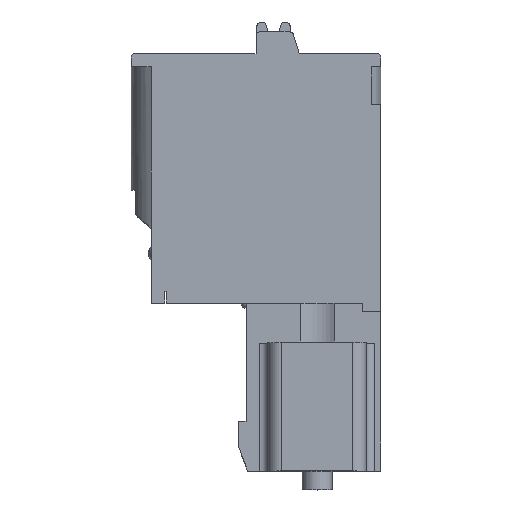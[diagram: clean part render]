
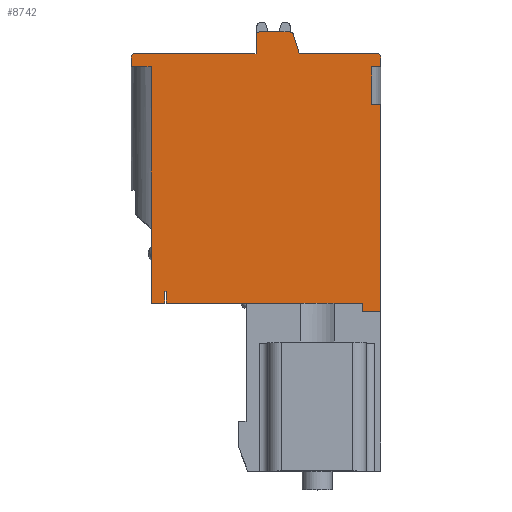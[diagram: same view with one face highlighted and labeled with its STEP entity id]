
A CAD part, top view. The second image highlights one B-rep face of the part: STEP entity #8742.
In plain terms, the highlighted planar face has unit normal (0, 0, 1).
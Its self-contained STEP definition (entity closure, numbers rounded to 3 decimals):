
#337=DIRECTION('',(0.,1.,0.));
#338=VECTOR('',#337,0.6);
#339=CARTESIAN_POINT('',(15.003,14.7,-15.24));
#340=LINE('',#339,#338);
#453=DIRECTION('',(0.,1.,0.));
#454=VECTOR('',#453,12.45);
#455=CARTESIAN_POINT('',(15.003,0.,-15.24));
#456=LINE('',#455,#454);
#1125=DIRECTION('',(0.,-1.,0.));
#1126=VECTOR('',#1125,0.5);
#1127=CARTESIAN_POINT('',(13.903,0.5,-15.24));
#1128=LINE('',#1127,#1126);
#1137=DIRECTION('',(-1.,0.,0.));
#1138=VECTOR('',#1137,1.1);
#1139=CARTESIAN_POINT('',(15.003,0.,-15.24));
#1140=LINE('',#1139,#1138);
#1141=DIRECTION('',(-1.,0.,0.));
#1142=VECTOR('',#1141,7.);
#1143=CARTESIAN_POINT('',(13.903,0.5,-15.24));
#1144=LINE('',#1143,#1142);
#1145=DIRECTION('',(-1.,0.,0.));
#1146=VECTOR('',#1145,0.1);
#1147=CARTESIAN_POINT('',(2.103,1.2,-15.24));
#1148=LINE('',#1147,#1146);
#1149=CARTESIAN_POINT('',(0.203,15.3,-15.24));
#1150=DIRECTION('',(0.,0.,-1.));
#1151=DIRECTION('',(-1.,0.,0.));
#1152=AXIS2_PLACEMENT_3D('',#1149,#1150,#1151);
#1154=CARTESIAN_POINT('',(7.703,16.6,-15.24));
#1155=DIRECTION('',(0.,0.,-1.));
#1156=DIRECTION('',(-1.,0.,0.));
#1157=AXIS2_PLACEMENT_3D('',#1154,#1155,#1156);
#1159=DIRECTION('',(1.,0.,0.));
#1160=VECTOR('',#1159,1.852);
#1161=CARTESIAN_POINT('',(7.703,16.8,-15.24));
#1162=LINE('',#1161,#1160);
#1163=CARTESIAN_POINT('',(9.555,16.6,-15.24));
#1164=DIRECTION('',(0.,0.,-1.));
#1165=DIRECTION('',(0.,1.,0.));
#1166=AXIS2_PLACEMENT_3D('',#1163,#1164,#1165);
#1168=DIRECTION('',(0.294,-0.956,0.));
#1169=VECTOR('',#1168,1.212);
#1170=CARTESIAN_POINT('',(9.746,16.659,-15.24));
#1171=LINE('',#1170,#1169);
#1172=DIRECTION('',(1.,0.,0.));
#1173=VECTOR('',#1172,4.7);
#1174=CARTESIAN_POINT('',(10.103,15.5,-15.24));
#1175=LINE('',#1174,#1173);
#1176=CARTESIAN_POINT('',(14.803,15.3,-15.24));
#1177=DIRECTION('',(0.,0.,-1.));
#1178=DIRECTION('',(0.,1.,0.));
#1179=AXIS2_PLACEMENT_3D('',#1176,#1177,#1178);
#1510=DIRECTION('',(1.,0.,0.));
#1511=VECTOR('',#1510,4.8);
#1512=CARTESIAN_POINT('',(2.103,0.5,-15.24));
#1513=LINE('',#1512,#1511);
#1548=DIRECTION('',(0.,-1.,0.));
#1549=VECTOR('',#1548,0.7);
#1550=CARTESIAN_POINT('',(2.103,1.2,-15.24));
#1551=LINE('',#1550,#1549);
#1564=DIRECTION('',(0.,1.,0.));
#1565=VECTOR('',#1564,0.7);
#1566=CARTESIAN_POINT('',(2.003,0.5,-15.24));
#1567=LINE('',#1566,#1565);
#1568=DIRECTION('',(1.,0.,0.));
#1569=VECTOR('',#1568,0.8);
#1570=CARTESIAN_POINT('',(1.203,0.5,-15.24));
#1571=LINE('',#1570,#1569);
#1580=DIRECTION('',(0.,-1.,0.));
#1581=VECTOR('',#1580,14.2);
#1582=CARTESIAN_POINT('',(1.203,14.7,-15.24));
#1583=LINE('',#1582,#1581);
#1694=DIRECTION('',(0.,-1.,0.));
#1695=VECTOR('',#1694,0.6);
#1696=CARTESIAN_POINT('',(0.003,15.3,-15.24));
#1697=LINE('',#1696,#1695);
#1730=DIRECTION('',(-1.,0.,0.));
#1731=VECTOR('',#1730,7.3);
#1732=CARTESIAN_POINT('',(7.503,15.5,-15.24));
#1733=LINE('',#1732,#1731);
#2032=DIRECTION('',(0.,-1.,0.));
#2033=VECTOR('',#2032,1.1);
#2034=CARTESIAN_POINT('',(7.503,16.6,-15.24));
#2035=LINE('',#2034,#2033);
#2870=DIRECTION('',(1.,0.,0.));
#2871=VECTOR('',#2870,1.2);
#2872=CARTESIAN_POINT('',(0.003,14.7,-15.24));
#2873=LINE('',#2872,#2871);
#3512=DIRECTION('',(1.,0.,0.));
#3513=VECTOR('',#3512,0.55);
#3514=CARTESIAN_POINT('',(14.453,14.7,-15.24));
#3515=LINE('',#3514,#3513);
#3537=DIRECTION('',(-1.,0.,0.));
#3538=VECTOR('',#3537,0.55);
#3539=CARTESIAN_POINT('',(15.003,12.45,-15.24));
#3540=LINE('',#3539,#3538);
#3550=DIRECTION('',(0.,1.,0.));
#3551=VECTOR('',#3550,2.25);
#3552=CARTESIAN_POINT('',(14.453,12.45,-15.24));
#3553=LINE('',#3552,#3551);
#5421=CARTESIAN_POINT('',(14.803,15.5,-15.24));
#5423=VERTEX_POINT('',#5421);
#5425=CARTESIAN_POINT('',(10.103,15.5,-15.24));
#5426=VERTEX_POINT('',#5425);
#5474=CARTESIAN_POINT('',(15.003,15.3,-15.24));
#5476=VERTEX_POINT('',#5474);
#5481=CARTESIAN_POINT('',(15.003,14.7,-15.24));
#5482=VERTEX_POINT('',#5481);
#5513=CARTESIAN_POINT('',(15.003,0.,-15.24));
#5514=VERTEX_POINT('',#5513);
#5515=CARTESIAN_POINT('',(15.003,12.45,-15.24));
#5516=VERTEX_POINT('',#5515);
#5720=CARTESIAN_POINT('',(6.903,0.5,-15.24));
#5721=VERTEX_POINT('',#5720);
#5739=CARTESIAN_POINT('',(2.103,0.5,-15.24));
#5741=VERTEX_POINT('',#5739);
#5782=CARTESIAN_POINT('',(2.003,0.5,-15.24));
#5783=VERTEX_POINT('',#5782);
#5784=CARTESIAN_POINT('',(1.203,0.5,-15.24));
#5785=VERTEX_POINT('',#5784);
#5798=CARTESIAN_POINT('',(1.203,14.7,-15.24));
#5799=VERTEX_POINT('',#5798);
#5874=CARTESIAN_POINT('',(7.503,15.5,-15.24));
#5875=VERTEX_POINT('',#5874);
#5876=CARTESIAN_POINT('',(0.203,15.5,-15.24));
#5877=VERTEX_POINT('',#5876);
#6075=CARTESIAN_POINT('',(0.003,15.3,-15.24));
#6076=VERTEX_POINT('',#6075);
#6077=CARTESIAN_POINT('',(0.003,14.7,-15.24));
#6078=VERTEX_POINT('',#6077);
#6083=CARTESIAN_POINT('',(7.503,16.6,-15.24));
#6084=VERTEX_POINT('',#6083);
#6085=CARTESIAN_POINT('',(7.703,16.8,-15.24));
#6086=VERTEX_POINT('',#6085);
#6087=CARTESIAN_POINT('',(9.555,16.8,-15.24));
#6088=VERTEX_POINT('',#6087);
#6089=CARTESIAN_POINT('',(9.746,16.659,-15.24));
#6090=VERTEX_POINT('',#6089);
#6091=CARTESIAN_POINT('',(14.453,14.7,-15.24));
#6092=VERTEX_POINT('',#6091);
#6093=CARTESIAN_POINT('',(14.453,12.45,-15.24));
#6094=VERTEX_POINT('',#6093);
#6639=CARTESIAN_POINT('',(2.103,1.2,-15.24));
#6641=VERTEX_POINT('',#6639);
#6646=CARTESIAN_POINT('',(13.903,0.5,-15.24));
#6647=CARTESIAN_POINT('',(13.903,0.,-15.24));
#6648=VERTEX_POINT('',#6646);
#6649=VERTEX_POINT('',#6647);
#6650=CARTESIAN_POINT('',(2.003,1.2,-15.24));
#6652=VERTEX_POINT('',#6650);
#8691=CARTESIAN_POINT('',(7.503,8.4,-15.24));
#8692=DIRECTION('',(0.,0.,1.));
#8693=DIRECTION('',(1.,0.,0.));
#8694=AXIS2_PLACEMENT_3D('',#8691,#8692,#8693);
#8695=PLANE('',#8694);
#8696=ORIENTED_EDGE('',*,*,#8582,.T.);
#8697=ORIENTED_EDGE('',*,*,#8681,.F.);
#8699=ORIENTED_EDGE('',*,*,#8698,.T.);
#8701=ORIENTED_EDGE('',*,*,#8700,.F.);
#8703=ORIENTED_EDGE('',*,*,#8702,.F.);
#8705=ORIENTED_EDGE('',*,*,#8704,.T.);
#8707=ORIENTED_EDGE('',*,*,#8706,.F.);
#8709=ORIENTED_EDGE('',*,*,#8708,.F.);
#8711=ORIENTED_EDGE('',*,*,#8710,.F.);
#8713=ORIENTED_EDGE('',*,*,#8712,.F.);
#8715=ORIENTED_EDGE('',*,*,#8714,.F.);
#8717=ORIENTED_EDGE('',*,*,#8716,.T.);
#8719=ORIENTED_EDGE('',*,*,#8718,.F.);
#8721=ORIENTED_EDGE('',*,*,#8720,.F.);
#8723=ORIENTED_EDGE('',*,*,#8722,.T.);
#8725=ORIENTED_EDGE('',*,*,#8724,.T.);
#8727=ORIENTED_EDGE('',*,*,#8726,.T.);
#8729=ORIENTED_EDGE('',*,*,#8728,.T.);
#8730=ORIENTED_EDGE('',*,*,#7461,.T.);
#8731=ORIENTED_EDGE('',*,*,#7536,.T.);
#8732=ORIENTED_EDGE('',*,*,#7553,.F.);
#8734=ORIENTED_EDGE('',*,*,#8733,.F.);
#8736=ORIENTED_EDGE('',*,*,#8735,.F.);
#8738=ORIENTED_EDGE('',*,*,#8737,.F.);
#8739=ORIENTED_EDGE('',*,*,#7774,.F.);
#8740=EDGE_LOOP('',(#8696,#8697,#8699,#8701,#8703,#8705,#8707,#8709,#8711,#8713,
#8715,#8717,#8719,#8721,#8723,#8725,#8727,#8729,#8730,#8731,#8732,#8734,#8736,
#8738,#8739));
#8741=FACE_OUTER_BOUND('',#8740,.F.);
#8742=ADVANCED_FACE('',(#8741),#8695,.T.);
#1153=CIRCLE('',#1152,0.2);
#1158=CIRCLE('',#1157,0.2);
#1167=CIRCLE('',#1166,0.2);
#1180=CIRCLE('',#1179,0.2);
#7461=EDGE_CURVE('',#5426,#5423,#1175,.T.);
#7536=EDGE_CURVE('',#5423,#5476,#1180,.T.);
#7553=EDGE_CURVE('',#5482,#5476,#340,.T.);
#7774=EDGE_CURVE('',#5514,#5516,#456,.T.);
#8582=EDGE_CURVE('',#5514,#6649,#1140,.T.);
#8681=EDGE_CURVE('',#6648,#6649,#1128,.T.);
#8698=EDGE_CURVE('',#6648,#5721,#1144,.T.);
#8700=EDGE_CURVE('',#5741,#5721,#1513,.T.);
#8702=EDGE_CURVE('',#6641,#5741,#1551,.T.);
#8704=EDGE_CURVE('',#6641,#6652,#1148,.T.);
#8706=EDGE_CURVE('',#5783,#6652,#1567,.T.);
#8708=EDGE_CURVE('',#5785,#5783,#1571,.T.);
#8710=EDGE_CURVE('',#5799,#5785,#1583,.T.);
#8712=EDGE_CURVE('',#6078,#5799,#2873,.T.);
#8714=EDGE_CURVE('',#6076,#6078,#1697,.T.);
#8716=EDGE_CURVE('',#6076,#5877,#1153,.T.);
#8718=EDGE_CURVE('',#5875,#5877,#1733,.T.);
#8720=EDGE_CURVE('',#6084,#5875,#2035,.T.);
#8722=EDGE_CURVE('',#6084,#6086,#1158,.T.);
#8724=EDGE_CURVE('',#6086,#6088,#1162,.T.);
#8726=EDGE_CURVE('',#6088,#6090,#1167,.T.);
#8728=EDGE_CURVE('',#6090,#5426,#1171,.T.);
#8733=EDGE_CURVE('',#6092,#5482,#3515,.T.);
#8735=EDGE_CURVE('',#6094,#6092,#3553,.T.);
#8737=EDGE_CURVE('',#5516,#6094,#3540,.T.);
